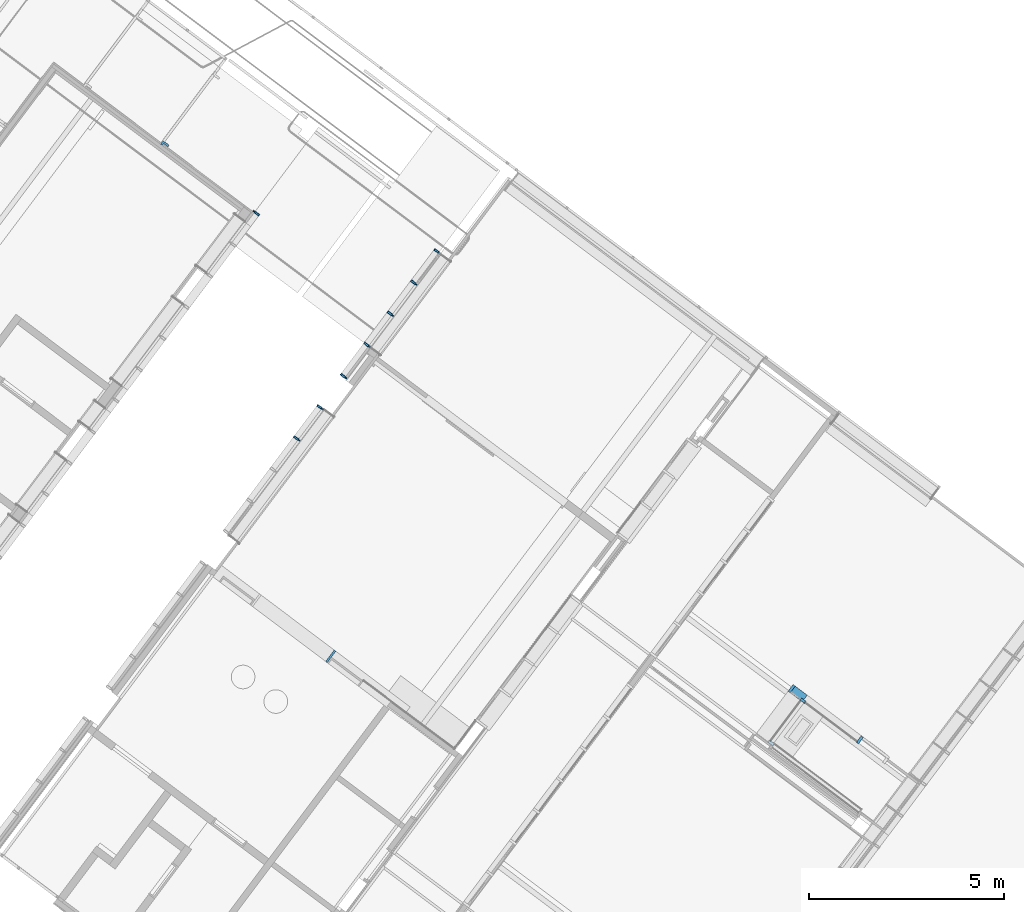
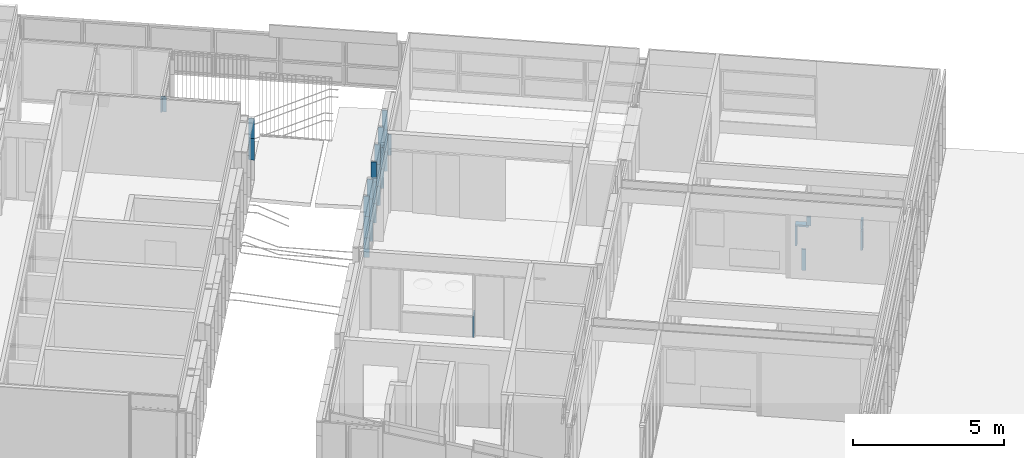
# One storey, part 89 of 243: 29 members, 6 elements without a shape of their own.
"""IFC2X3 building model written with IfcOpenShell, lengths in metres."""

from ifc_helpers import new_model, entity, si_unit, converted_unit, derived_unit, direction, frame, frame_2d, origin, origin_2d_with_axis, place, context, subcontext, project, spatial, polyline, rectangle, outline, extrude, source, transform, mapped, material, type_object, type_shapes, element, aggregate, save


model = new_model("IFC2X3")

# Units and contexts
model_context = context("Model", 3, precision=1e-05, world=origin(), true_north=direction((6.123031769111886e-17, 1.0)))
body_context = subcontext(model_context, "Body", "Model", "MODEL_VIEW")
ifc_project = project(units=[si_unit("LENGTHUNIT", "METRE"), si_unit("AREAUNIT", "SQUARE_METRE"), si_unit("VOLUMEUNIT", "CUBIC_METRE"), converted_unit("PLANEANGLEUNIT", "DEGREE", entity("IfcRatioMeasure", 0.017453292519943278), si_unit("PLANEANGLEUNIT", "RADIAN"), dimensions=[0, 0, 0, 0, 0, 0, 0]), si_unit("MASSUNIT", "GRAM", prefix="KILO"), derived_unit("MASSDENSITYUNIT", [(si_unit("MASSUNIT", "GRAM", prefix="KILO"), 1), (si_unit("LENGTHUNIT", "METRE"), -3)]), derived_unit("IONCONCENTRATIONUNIT", [(si_unit("MASSUNIT", "GRAM", prefix="KILO"), 1), (si_unit("LENGTHUNIT", "METRE"), -3)]), derived_unit("MOMENTOFINERTIAUNIT", [(si_unit("LENGTHUNIT", "METRE"), 4)]), si_unit("TIMEUNIT", "SECOND"), si_unit("FREQUENCYUNIT", "HERTZ"), si_unit("THERMODYNAMICTEMPERATUREUNIT", "DEGREE_CELSIUS"), derived_unit("THERMALTRANSMITTANCEUNIT", [(si_unit("MASSUNIT", "GRAM", prefix="KILO"), 1), (si_unit("THERMODYNAMICTEMPERATUREUNIT", "KELVIN"), -1), (si_unit("TIMEUNIT", "SECOND"), -3)]), derived_unit("THERMALCONDUCTANCEUNIT", [(si_unit("MASSUNIT", "GRAM", prefix="KILO"), 1), (si_unit("THERMODYNAMICTEMPERATUREUNIT", "KELVIN"), -1), (si_unit("TIMEUNIT", "SECOND"), -3), (si_unit("LENGTHUNIT", "METRE"), 1)]), derived_unit("VOLUMETRICFLOWRATEUNIT", [(si_unit("LENGTHUNIT", "METRE"), 3), (si_unit("TIMEUNIT", "SECOND"), -1)]), derived_unit("MASSFLOWRATEUNIT", [(si_unit("MASSUNIT", "GRAM", prefix="KILO"), 1), (si_unit("TIMEUNIT", "SECOND"), -1)]), derived_unit("ROTATIONALFREQUENCYUNIT", [(si_unit("TIMEUNIT", "SECOND"), -1)]), si_unit("ELECTRICCURRENTUNIT", "AMPERE"), si_unit("ELECTRICVOLTAGEUNIT", "VOLT"), si_unit("POWERUNIT", "WATT"), si_unit("FORCEUNIT", "NEWTON", prefix="KILO"), si_unit("ILLUMINANCEUNIT", "LUX"), si_unit("LUMINOUSFLUXUNIT", "LUMEN"), si_unit("LUMINOUSINTENSITYUNIT", "CANDELA"), derived_unit("USERDEFINED", [(si_unit("MASSUNIT", "GRAM", prefix="KILO"), -1), (si_unit("LENGTHUNIT", "METRE"), -2), (si_unit("TIMEUNIT", "SECOND"), 3), (si_unit("LUMINOUSFLUXUNIT", "LUMEN"), 1)]), derived_unit("USERDEFINED", [(si_unit("MASSUNIT", "GRAM", prefix="KILO"), 1), (si_unit("TIMEUNIT", "SECOND"), -3), (si_unit("LENGTHUNIT", "METRE"), 3), (si_unit("ELECTRICCURRENTUNIT", "AMPERE"), -2)]), derived_unit("SOUNDPOWERUNIT", [(si_unit("MASSUNIT", "GRAM", prefix="KILO"), 1), (si_unit("TIMEUNIT", "SECOND"), -3), (si_unit("LENGTHUNIT", "METRE"), 2)]), derived_unit("SOUNDPRESSUREUNIT", [(si_unit("MASSUNIT", "GRAM", prefix="KILO"), 1), (si_unit("LENGTHUNIT", "METRE"), -1), (si_unit("TIMEUNIT", "SECOND"), -2)]), derived_unit("LINEARVELOCITYUNIT", [(si_unit("LENGTHUNIT", "METRE"), 1), (si_unit("TIMEUNIT", "SECOND"), -1)]), si_unit("PRESSUREUNIT", "PASCAL"), derived_unit("USERDEFINED", [(si_unit("MASSUNIT", "GRAM", prefix="KILO"), 1), (si_unit("LENGTHUNIT", "METRE"), -2), (si_unit("TIMEUNIT", "SECOND"), -2)]), derived_unit("LINEARFORCEUNIT", [(si_unit("MASSUNIT", "GRAM", prefix="KILO"), 1), (si_unit("TIMEUNIT", "SECOND"), -2)]), derived_unit("PLANARFORCEUNIT", [(si_unit("MASSUNIT", "GRAM", prefix="KILO"), 1), (si_unit("LENGTHUNIT", "METRE"), -1), (si_unit("TIMEUNIT", "SECOND"), -2)]), derived_unit("SPECIFICHEATCAPACITYUNIT", [(si_unit("THERMODYNAMICTEMPERATUREUNIT", "KELVIN"), -1), (si_unit("LENGTHUNIT", "METRE"), 2), (si_unit("TIMEUNIT", "SECOND"), -2)]), derived_unit("HEATINGVALUEUNIT", [(si_unit("LENGTHUNIT", "METRE"), 2), (si_unit("TIMEUNIT", "SECOND"), -2)]), derived_unit("VAPORPERMEABILITYUNIT", [(si_unit("LENGTHUNIT", "METRE"), -1), (si_unit("TIMEUNIT", "SECOND"), 1)]), derived_unit("DYNAMICVISCOSITYUNIT", [(si_unit("MASSUNIT", "GRAM", prefix="KILO"), 1), (si_unit("TIMEUNIT", "SECOND"), -1), (si_unit("LENGTHUNIT", "METRE"), -1)]), derived_unit("THERMALEXPANSIONCOEFFICIENTUNIT", [(si_unit("THERMODYNAMICTEMPERATUREUNIT", "KELVIN"), -1)]), derived_unit("MODULUSOFELASTICITYUNIT", [(si_unit("MASSUNIT", "GRAM", prefix="KILO"), 1), (si_unit("LENGTHUNIT", "METRE"), -1), (si_unit("TIMEUNIT", "SECOND"), -2)]), derived_unit("ISOTHERMALMOISTURECAPACITYUNIT", [(si_unit("LENGTHUNIT", "METRE"), 3), (si_unit("MASSUNIT", "GRAM", prefix="KILO"), -1)]), derived_unit("MOISTUREDIFFUSIVITYUNIT", [(si_unit("TIMEUNIT", "SECOND"), -1), (si_unit("LENGTHUNIT", "METRE"), 2)])], contexts=[model_context])

# Site, building, storey
site_placement = place(None, frame((0.0, 0.0, 235.0), z_axis=(0.0, 0.0, 1.0), x_axis=(-0.7996477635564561, 0.6004693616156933, 0.0)))
site = spatial("IfcSite", under=ifc_project, at=site_placement, Name="Default", CompositionType="ELEMENT")
building_placement = place(site_placement, origin())
building = spatial("IfcBuilding", under=site, at=building_placement, CompositionType="ELEMENT")
storey_placement = place(building_placement, origin())
storey = spatial("IfcBuildingStorey", under=building, at=storey_placement, Name="P0- Escola", CompositionType="ELEMENT", Elevation=0.0)

# Curtain wall, members
curtain_wall_type_1 = type_object("IfcCurtainWallType", Name="Muro cortina:MC- INT- k1", PredefinedType="NOTDEFINED")
curtain_wall_1_placement = place(storey_placement, origin())
curtain_wall_1 = element("IfcCurtainWall", 1, at=curtain_wall_1_placement, inside=storey, type_object=curtain_wall_type_1, Name="Muro cortina:MC- INT- k1", ObjectType="Muro cortina:MC- INT- k1")
ifc_material_1 = material(Name="_Fusta massisa- T1")
member_type_1 = type_object("IfcMemberType", Name="Montante rectangular:MC- Fusta- 21,4x7 cm- Neutre- Bany infantil", PredefinedType="MULLION", material=ifc_material_1)
shared_shape_1 = source(origin(), body_context, "Body", "SweptSolid", [
    extrude(rectangle(XDim=0.21400000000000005, YDim=0.06999999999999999, at=frame_2d((-5.551115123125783e-17, 0.0), x_axis=(1.0, 0.0))), frame((0.0, -0.08099999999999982, -0.7849999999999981), z_axis=(0.0, 0.0, 1.0), x_axis=(0.0, -1.0, 0.0)), (0.0, 0.0, 1.0), 0.7849999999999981),
])
type_shapes(member_type_1, [shared_shape_1])
member_1_placement = place(curtain_wall_1_placement, frame((7.804147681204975, -35.827191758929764, 0.0), z_axis=(0.0, 0.0, -1.0), x_axis=(-1.0, 0.0, 0.0)))
member_1 = element("IfcMember", 2, at=member_1_placement, type_object=member_type_1, material=ifc_material_1, Name="Montante rectangular:MC- Fusta- 21,4x7 cm- Neutre- Bany infantil", ObjectType="Montante rectangular:MC- Fusta- 21,4x7 cm- Neutre- Bany infantil", context=body_context, shape_type="MappedRepresentation", body=[
    mapped(shared_shape_1, transform((0.0, 0.0, 0.0), scale=1.0)),
])
member_type_2 = type_object("IfcMemberType", Name="Montante rectangular:MC- Fusta- 21,4x7 cm- Neutre- Bany infantil", PredefinedType="MULLION", material=ifc_material_1)
shared_shape_2 = source(origin(), body_context, "Body", "SweptSolid", [
    extrude(rectangle(XDim=0.21399999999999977, YDim=0.06999999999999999, at=frame_2d((5.551115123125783e-17, 0.0), x_axis=(1.0, 0.0))), frame((-0.034999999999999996, -0.08099999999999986, -0.7849999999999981), z_axis=(0.0, 0.0, 1.0), x_axis=(0.0, -1.0, 0.0)), (0.0, 0.0, 1.0), 0.7849999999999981),
])
type_shapes(member_type_2, [shared_shape_2])
member_2_placement = place(curtain_wall_1_placement, frame((10.025147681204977, -35.82719175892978, 0.7849999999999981)))
member_2 = element("IfcMember", 3, at=member_2_placement, type_object=member_type_2, material=ifc_material_1, Name="Montante rectangular:MC- Fusta- 21,4x7 cm- Neutre- Bany infantil", ObjectType="Montante rectangular:MC- Fusta- 21,4x7 cm- Neutre- Bany infantil", context=body_context, shape_type="MappedRepresentation", body=[
    mapped(shared_shape_2, transform((0.0, 0.0, 0.0), scale=1.0)),
])
member_type_3 = type_object("IfcMemberType", Name="Montante rectangular:MC- Fusta- 21,4x7 cm- Esquerra- Bany infantil", PredefinedType="MULLION", material=ifc_material_1)
shared_shape_3 = source(origin(), body_context, "Body", "SweptSolid", [
    extrude(outline(polyline([(-0.06649999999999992, -0.02249999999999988), (-0.05049999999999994, -0.02249999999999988), (-0.050499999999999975, -0.0024999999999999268), (-0.030499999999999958, -0.002499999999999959), (-0.030499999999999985, -0.022499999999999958), (0.14749999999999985, -0.022500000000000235), (0.14749999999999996, 0.04749999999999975), (-0.06650000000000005, 0.04750000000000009), (-0.06649999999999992, -0.02249999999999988)])), frame((-0.012500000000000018, -0.04049999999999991, -0.3450000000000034), z_axis=(0.0, 0.0, 1.0), x_axis=(0.0, -1.0, 0.0)), (0.0, 0.0, 1.0), 0.34500000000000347),
])
type_shapes(member_type_3, [shared_shape_3])
member_3_placement = place(curtain_wall_1_placement, frame((7.804147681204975, -35.827191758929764, 0.8549999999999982), z_axis=(0.0, 0.0, -1.0), x_axis=(-1.0, 0.0, 0.0)))
member_3 = element("IfcMember", 4, at=member_3_placement, type_object=member_type_3, material=ifc_material_1, Name="Montante rectangular:MC- Fusta- 21,4x7 cm- Esquerra- Bany infantil", ObjectType="Montante rectangular:MC- Fusta- 21,4x7 cm- Esquerra- Bany infantil", context=body_context, shape_type="MappedRepresentation", body=[
    mapped(shared_shape_3, transform((0.0, 0.0, 0.0), scale=1.0)),
])
member_type_4 = type_object("IfcMemberType", Name="Montante rectangular:MC- Fusta- 21,4x7 cm- Neutre- Bany infantil", PredefinedType="MULLION", material=ifc_material_1)
shared_shape_4 = source(origin(), body_context, "Body", "SweptSolid", [
    extrude(rectangle(XDim=0.21400000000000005, YDim=0.06999999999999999, at=frame_2d((-5.551115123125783e-17, 0.0), x_axis=(1.0, 0.0))), frame((0.0, -0.08099999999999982, -0.4550000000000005), z_axis=(0.0, 0.0, 1.0), x_axis=(0.0, -1.0, 0.0)), (0.0, 0.0, 1.0), 0.4550000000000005),
])
type_shapes(member_type_4, [shared_shape_4])
member_4_placement = place(curtain_wall_1_placement, frame((9.570147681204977, -35.82719175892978, 0.8199999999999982), z_axis=(-1.0, 0.0, 0.0), x_axis=(0.0, 0.0, 1.0)))
member_4 = element("IfcMember", 5, at=member_4_placement, type_object=member_type_4, material=ifc_material_1, Name="Montante rectangular:MC- Fusta- 21,4x7 cm- Neutre- Bany infantil", ObjectType="Montante rectangular:MC- Fusta- 21,4x7 cm- Neutre- Bany infantil", context=body_context, shape_type="MappedRepresentation", body=[
    mapped(shared_shape_4, transform((0.0, 0.0, 0.0), scale=1.0)),
])
member_type_5 = type_object("IfcMemberType", Name="Montante rectangular:PerfilBany-Dreta", PredefinedType="MULLION", material=ifc_material_1)
shared_shape_5 = source(origin(), body_context, "Body", "SweptSolid", [
    extrude(outline(polyline([(-0.03050000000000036, -0.1075), (0.0394999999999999, -0.1075), (0.0394999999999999, 0.04250000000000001), (0.0055000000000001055, 0.04250000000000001), (0.0055000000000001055, 0.022500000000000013), (-0.014499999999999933, 0.022500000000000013), (-0.014499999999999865, 0.04249999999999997), (-0.030499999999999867, 0.04249999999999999), (-0.03050000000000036, -0.1075)])), frame((0.03250000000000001, -0.0045000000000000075, -0.3450000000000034), z_axis=(0.0, 0.0, 1.0), x_axis=(0.0, -1.0, 0.0)), (0.0, 0.0, 1.0), 0.34500000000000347),
])
type_shapes(member_type_5, [shared_shape_5])
member_5_placement = place(curtain_wall_1_placement, frame((9.570147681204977, -35.82719175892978, 0.8549999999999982), z_axis=(0.0, 0.0, -1.0), x_axis=(-1.0, 0.0, 0.0)))
member_5 = element("IfcMember", 6, at=member_5_placement, type_object=member_type_5, material=ifc_material_1, Name="Montante rectangular:PerfilBany-Dreta", ObjectType="Montante rectangular:PerfilBany-Dreta", context=body_context, shape_type="MappedRepresentation", body=[
    mapped(shared_shape_5, transform((0.0, 0.0, 0.0), scale=1.0)),
])
aggregate(curtain_wall_1, [member_1, member_2, member_3, member_4, member_5])

# Curtain wall, member
curtain_wall_type_2 = type_object("IfcCurtainWallType", Name="Muro cortina:MC- INT- k1", PredefinedType="NOTDEFINED")
curtain_wall_2_placement = place(storey_placement, origin())
curtain_wall_2 = element("IfcCurtainWall", 7, at=curtain_wall_2_placement, inside=storey, type_object=curtain_wall_type_2, Name="Muro cortina:MC- INT- k1", ObjectType="Muro cortina:MC- INT- k1")
member_type_6 = type_object("IfcMemberType", Name="Montante rectangular:MC- Fusta- 15x7- Neutre", PredefinedType="MULLION", material=ifc_material_1)
shared_shape_6 = source(origin(), body_context, "Body", "SweptSolid", [
    extrude(rectangle(XDim=0.1499999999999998, YDim=0.06999999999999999, at=frame_2d((4.85722573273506e-17, 0.0), x_axis=(1.0, 0.0))), frame((-0.034999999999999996, -0.04899999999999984, -0.8399999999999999), z_axis=(0.0, 0.0, 1.0), x_axis=(0.0, -1.0, 0.0)), (0.0, 0.0, 1.0), 0.8399999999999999),
])
type_shapes(member_type_6, [shared_shape_6])
member_6_placement = place(curtain_wall_2_placement, frame((9.619147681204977, -34.440191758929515, 0.0), z_axis=(0.0, 0.0, -1.0), x_axis=(0.0, 1.0, 0.0)))
member_6 = element("IfcMember", 8, at=member_6_placement, type_object=member_type_6, material=ifc_material_1, Name="Montante rectangular:MC- Fusta- 15x7- Neutre", ObjectType="Montante rectangular:MC- Fusta- 15x7- Neutre", context=body_context, shape_type="MappedRepresentation", body=[
    mapped(shared_shape_6, transform((0.0, 0.0, 0.0), scale=1.0)),
])
aggregate(curtain_wall_2, [member_6])

# Curtain wall, members
curtain_wall_type_3 = type_object("IfcCurtainWallType", Name="Muro cortina:MC- EXT- MC2", PredefinedType="NOTDEFINED")
curtain_wall_3_placement = place(storey_placement, origin())
curtain_wall_3 = element("IfcCurtainWall", 9, at=curtain_wall_3_placement, inside=storey, type_object=curtain_wall_type_3, Name="Muro cortina:MC- EXT- MC2", ObjectType="Muro cortina:MC- EXT- MC2")
ifc_material_2 = material(Name="_Alumini- T1- Perfil")
member_type_7 = type_object("IfcMemberType", Name="Montante rectangular:MC- Alu- 140x52,5 cm- Fa patis- Centre", PredefinedType="MULLION", material=ifc_material_2)
shared_shape_7 = source(origin(), body_context, "Body", "SweptSolid", [
    extrude(outline(polyline([(-0.11699999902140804, -0.026250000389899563), (0.021999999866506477, -0.026250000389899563), (0.021999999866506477, -0.015000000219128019), (0.07299999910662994, -0.015000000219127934), (0.07299999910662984, 0.015000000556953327), (0.02200000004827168, 0.015000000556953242), (0.02200000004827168, 0.026250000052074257), (-0.11699999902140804, 0.026250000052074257), (-0.11699999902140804, -0.026250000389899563)])), frame((-0.026250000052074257, 0.022999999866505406, -0.8750000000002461), z_axis=(0.0, 0.0, 1.0), x_axis=(0.0, -1.0, 0.0)), (0.0, 0.0, 1.0), 0.8750000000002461),
])
type_shapes(member_type_7, [shared_shape_7])
member_7_placement = place(curtain_wall_3_placement, frame((28.345147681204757, -37.44144175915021, 0.8200000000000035), z_axis=(0.0, 0.0, -1.0), x_axis=(0.0, -1.0, 0.0)))
member_7 = element("IfcMember", 10, at=member_7_placement, type_object=member_type_7, material=ifc_material_2, Name="Montante rectangular:MC- Alu- 140x52,5 cm- Fa patis- Centre", ObjectType="Montante rectangular:MC- Alu- 140x52,5 cm- Fa patis- Centre", context=body_context, shape_type="MappedRepresentation", body=[
    mapped(shared_shape_7, transform((0.0, 0.0, 0.0), scale=1.0)),
])
member_type_8 = type_object("IfcMemberType", Name="Montante rectangular:MC- Alu- 140x52,5 cm- Fa patis- Centre", PredefinedType="MULLION", material=ifc_material_2)
shared_shape_8 = source(origin(), body_context, "Body", "SweptSolid", [
    extrude(outline(polyline([(-0.11699999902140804, -0.026250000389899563), (0.021999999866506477, -0.026250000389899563), (0.021999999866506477, -0.015000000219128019), (0.07299999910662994, -0.015000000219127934), (0.07299999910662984, 0.015000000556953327), (0.02200000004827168, 0.015000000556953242), (0.02200000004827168, 0.026250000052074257), (-0.11699999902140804, 0.026250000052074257), (-0.11699999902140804, -0.026250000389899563)])), frame((-0.026250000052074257, 0.022999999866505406, -0.79749999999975), z_axis=(0.0, 0.0, 1.0), x_axis=(0.0, -1.0, 0.0)), (0.0, 0.0, 1.0), 0.79749999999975),
])
type_shapes(member_type_8, [shared_shape_8])
member_8_placement = place(curtain_wall_3_placement, frame((28.345147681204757, -37.44144175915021, 1.6950000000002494), z_axis=(0.0, 0.0, -1.0), x_axis=(0.0, -1.0, 0.0)))
member_8 = element("IfcMember", 11, at=member_8_placement, type_object=member_type_8, material=ifc_material_2, Name="Montante rectangular:MC- Alu- 140x52,5 cm- Fa patis- Centre", ObjectType="Montante rectangular:MC- Alu- 140x52,5 cm- Fa patis- Centre", context=body_context, shape_type="MappedRepresentation", body=[
    mapped(shared_shape_8, transform((0.0, 0.0, 0.0), scale=1.0)),
])
aggregate(curtain_wall_3, [member_7, member_8])

curtain_wall_4_placement = place(storey_placement, origin())
curtain_wall_4 = element("IfcCurtainWall", 12, at=curtain_wall_4_placement, inside=storey, type_object=curtain_wall_type_3, Name="Muro cortina:MC- EXT- MC2", ObjectType="Muro cortina:MC- EXT- MC2")
member_type_9 = type_object("IfcMemberType", Name="Montante rectangular:MC- Alu- 140x52,5 cm- Fa patis- Centre", PredefinedType="MULLION", material=ifc_material_2)
shared_shape_9 = source(origin(), body_context, "Body", "SweptSolid", [
    extrude(outline(polyline([(-0.021999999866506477, -0.026250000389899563), (0.11699999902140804, -0.026250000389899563), (0.11699999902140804, 0.026250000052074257), (-0.02200000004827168, 0.026250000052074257), (-0.02200000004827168, 0.015000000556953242), (-0.07299999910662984, 0.015000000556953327), (-0.07299999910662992, -0.015000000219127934), (-0.021999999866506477, -0.015000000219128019), (-0.021999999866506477, -0.026250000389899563)])), frame((-0.026250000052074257, -0.022999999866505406, -0.8400000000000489), z_axis=(0.0, 0.0, 1.0), x_axis=(0.0, -1.0, 0.0)), (0.0, 0.0, 1.0), 0.8400000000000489),
])
type_shapes(member_type_9, [shared_shape_9])
member_9_placement = place(curtain_wall_4_placement, frame((23.945147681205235, -39.441441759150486, -0.02), z_axis=(0.0, 0.0, -1.0), x_axis=(0.0, -1.0, 0.0)))
member_9 = element("IfcMember", 13, at=member_9_placement, type_object=member_type_9, material=ifc_material_2, Name="Montante rectangular:MC- Alu- 140x52,5 cm- Fa patis- Centre", ObjectType="Montante rectangular:MC- Alu- 140x52,5 cm- Fa patis- Centre", context=body_context, shape_type="MappedRepresentation", body=[
    mapped(shared_shape_9, transform((0.0, 0.0, 0.0), scale=1.0)),
])
member_type_10 = type_object("IfcMemberType", Name="Montante rectangular:MC- Alu- 140x52,5 cm- Fa patis- Centre", PredefinedType="MULLION", material=ifc_material_2)
shared_shape_10 = source(origin(), body_context, "Body", "SweptSolid", [
    extrude(outline(polyline([(-0.021999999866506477, -0.026250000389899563), (0.11699999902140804, -0.026250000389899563), (0.11699999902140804, 0.026250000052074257), (-0.02200000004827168, 0.026250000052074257), (-0.02200000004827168, 0.015000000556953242), (-0.07299999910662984, 0.015000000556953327), (-0.07299999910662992, -0.01500000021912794), (-0.021999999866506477, -0.01500000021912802), (-0.021999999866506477, -0.026250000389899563)])), frame((0.0, -0.022999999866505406, -0.8400000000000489), z_axis=(0.0, 0.0, 1.0), x_axis=(0.0, -1.0, 0.0)), (0.0, 0.0, 1.0), 0.8400000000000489),
])
type_shapes(member_type_10, [shared_shape_10])
member_10_placement = place(curtain_wall_4_placement, frame((23.945147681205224, -34.415191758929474, -0.02), z_axis=(0.0, 0.0, -1.0), x_axis=(0.0, -1.0, 0.0)))
member_10 = element("IfcMember", 14, at=member_10_placement, type_object=member_type_10, material=ifc_material_2, Name="Montante rectangular:MC- Alu- 140x52,5 cm- Fa patis- Centre", ObjectType="Montante rectangular:MC- Alu- 140x52,5 cm- Fa patis- Centre", context=body_context, shape_type="MappedRepresentation", body=[
    mapped(shared_shape_10, transform((0.0, 0.0, 0.0), scale=1.0)),
])
member_type_11 = type_object("IfcMemberType", Name="Montante rectangular:MC- Alu- 140x52,5 cm- Fa patis- Centre", PredefinedType="MULLION", material=ifc_material_2)
shared_shape_11 = source(origin(), body_context, "Body", "SweptSolid", [
    extrude(outline(polyline([(-0.021999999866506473, -0.026250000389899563), (0.11699999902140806, -0.026250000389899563), (0.11699999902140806, 0.026250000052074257), (-0.022000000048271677, 0.026250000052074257), (-0.022000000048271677, 0.015000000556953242), (-0.07299999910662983, 0.015000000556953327), (-0.07299999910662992, -0.01500000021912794), (-0.021999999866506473, -0.01500000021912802), (-0.021999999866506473, -0.026250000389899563)])), frame((0.0, -0.022999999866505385, -0.7850000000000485), z_axis=(0.0, 0.0, 1.0), x_axis=(0.0, -1.0, 0.0)), (0.0, 0.0, 1.0), 0.7850000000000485),
])
type_shapes(member_type_11, [shared_shape_11])
member_11_placement = place(curtain_wall_4_placement, frame((23.945147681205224, -33.41519175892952, 0.035000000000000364), z_axis=(0.0, 0.0, -1.0), x_axis=(0.0, -1.0, 0.0)))
member_11 = element("IfcMember", 15, at=member_11_placement, type_object=member_type_11, material=ifc_material_2, Name="Montante rectangular:MC- Alu- 140x52,5 cm- Fa patis- Centre", ObjectType="Montante rectangular:MC- Alu- 140x52,5 cm- Fa patis- Centre", context=body_context, shape_type="MappedRepresentation", body=[
    mapped(shared_shape_11, transform((0.0, 0.0, 0.0), scale=1.0)),
])
member_12_placement = place(curtain_wall_4_placement, frame((23.945147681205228, -36.41798786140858, 0.035000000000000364), z_axis=(0.0, 0.0, -1.0), x_axis=(0.0, -1.0, 0.0)))
member_12 = element("IfcMember", 16, at=member_12_placement, type_object=member_type_11, material=ifc_material_2, Name="Montante rectangular:MC- Alu- 140x52,5 cm- Fa patis- Centre", ObjectType="Montante rectangular:MC- Alu- 140x52,5 cm- Fa patis- Centre", context=body_context, shape_type="MappedRepresentation", body=[
    mapped(shared_shape_11, transform((0.0, 0.0, 0.0), scale=1.0)),
])
member_type_12 = type_object("IfcMemberType", Name="Montante rectangular:MC- Alu- 140x52,5 cm- Fa patis- Centre", PredefinedType="MULLION", material=ifc_material_2)
shared_shape_12 = source(origin(), body_context, "Body", "SweptSolid", [
    extrude(outline(polyline([(-0.021999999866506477, -0.026250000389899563), (0.11699999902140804, -0.026250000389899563), (0.11699999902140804, 0.026250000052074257), (-0.02200000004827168, 0.026250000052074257), (-0.02200000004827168, 0.015000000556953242), (-0.07299999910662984, 0.015000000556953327), (-0.07299999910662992, -0.01500000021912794), (-0.021999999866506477, -0.01500000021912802), (-0.021999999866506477, -0.026250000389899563)])), frame((0.0, -0.022999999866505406, -0.8750000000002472), z_axis=(0.0, 0.0, 1.0), x_axis=(0.0, -1.0, 0.0)), (0.0, 0.0, 1.0), 0.8750000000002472),
])
type_shapes(member_type_12, [shared_shape_12])
member_13_placement = place(curtain_wall_4_placement, frame((23.945147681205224, -33.41519175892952, 0.8200000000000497), z_axis=(0.0, 0.0, -1.0), x_axis=(0.0, -1.0, 0.0)))
member_13 = element("IfcMember", 17, at=member_13_placement, type_object=member_type_12, material=ifc_material_2, Name="Montante rectangular:MC- Alu- 140x52,5 cm- Fa patis- Centre", ObjectType="Montante rectangular:MC- Alu- 140x52,5 cm- Fa patis- Centre", context=body_context, shape_type="MappedRepresentation", body=[
    mapped(shared_shape_12, transform((0.0, 0.0, 0.0), scale=1.0)),
])
member_14_placement = place(curtain_wall_4_placement, frame((23.945147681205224, -34.415191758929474, 0.8200000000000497), z_axis=(0.0, 0.0, -1.0), x_axis=(0.0, -1.0, 0.0)))
member_14 = element("IfcMember", 18, at=member_14_placement, type_object=member_type_12, material=ifc_material_2, Name="Montante rectangular:MC- Alu- 140x52,5 cm- Fa patis- Centre", ObjectType="Montante rectangular:MC- Alu- 140x52,5 cm- Fa patis- Centre", context=body_context, shape_type="MappedRepresentation", body=[
    mapped(shared_shape_12, transform((0.0, 0.0, 0.0), scale=1.0)),
])
member_15_placement = place(curtain_wall_4_placement, frame((23.945147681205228, -35.41519175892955, 0.8200000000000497), z_axis=(0.0, 0.0, -1.0), x_axis=(0.0, -1.0, 0.0)))
member_15 = element("IfcMember", 19, at=member_15_placement, type_object=member_type_12, material=ifc_material_2, Name="Montante rectangular:MC- Alu- 140x52,5 cm- Fa patis- Centre", ObjectType="Montante rectangular:MC- Alu- 140x52,5 cm- Fa patis- Centre", context=body_context, shape_type="MappedRepresentation", body=[
    mapped(shared_shape_12, transform((0.0, 0.0, 0.0), scale=1.0)),
])
member_16_placement = place(curtain_wall_4_placement, frame((23.945147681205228, -36.41798786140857, 0.8200000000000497), z_axis=(0.0, 0.0, -1.0), x_axis=(0.0, -1.0, 0.0)))
member_16 = element("IfcMember", 20, at=member_16_placement, type_object=member_type_12, material=ifc_material_2, Name="Montante rectangular:MC- Alu- 140x52,5 cm- Fa patis- Centre", ObjectType="Montante rectangular:MC- Alu- 140x52,5 cm- Fa patis- Centre", context=body_context, shape_type="MappedRepresentation", body=[
    mapped(shared_shape_12, transform((0.0, 0.0, 0.0), scale=1.0)),
])
member_17_placement = place(curtain_wall_4_placement, frame((23.945147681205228, -37.41519175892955, 0.8200000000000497), z_axis=(0.0, 0.0, -1.0), x_axis=(0.0, -1.0, 0.0)))
member_17 = element("IfcMember", 21, at=member_17_placement, type_object=member_type_12, material=ifc_material_2, Name="Montante rectangular:MC- Alu- 140x52,5 cm- Fa patis- Centre", ObjectType="Montante rectangular:MC- Alu- 140x52,5 cm- Fa patis- Centre", context=body_context, shape_type="MappedRepresentation", body=[
    mapped(shared_shape_12, transform((0.0, 0.0, 0.0), scale=1.0)),
])
member_18_placement = place(curtain_wall_4_placement, frame((23.945147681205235, -38.41519175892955, 0.8200000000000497), z_axis=(0.0, 0.0, -1.0), x_axis=(0.0, -1.0, 0.0)))
member_18 = element("IfcMember", 22, at=member_18_placement, type_object=member_type_12, material=ifc_material_2, Name="Montante rectangular:MC- Alu- 140x52,5 cm- Fa patis- Centre", ObjectType="Montante rectangular:MC- Alu- 140x52,5 cm- Fa patis- Centre", context=body_context, shape_type="MappedRepresentation", body=[
    mapped(shared_shape_12, transform((0.0, 0.0, 0.0), scale=1.0)),
])
member_type_13 = type_object("IfcMemberType", Name="Montante rectangular:MC- Alu- 140x52,5 cm- Fa patis- Centre", PredefinedType="MULLION", material=ifc_material_2)
shared_shape_13 = source(origin(), body_context, "Body", "SweptSolid", [
    extrude(outline(polyline([(-0.021999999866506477, -0.026250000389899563), (0.11699999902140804, -0.026250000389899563), (0.11699999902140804, 0.026250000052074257), (-0.02200000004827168, 0.026250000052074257), (-0.02200000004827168, 0.015000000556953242), (-0.07299999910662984, 0.015000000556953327), (-0.07299999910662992, -0.01500000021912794), (-0.021999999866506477, -0.01500000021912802), (-0.021999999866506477, -0.026250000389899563)])), frame((0.0, -0.022999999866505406, -0.7974999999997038), z_axis=(0.0, 0.0, 1.0), x_axis=(0.0, -1.0, 0.0)), (0.0, 0.0, 1.0), 0.7974999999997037),
])
type_shapes(member_type_13, [shared_shape_13])
member_19_placement = place(curtain_wall_4_placement, frame((23.945147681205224, -33.41519175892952, 1.6950000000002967), z_axis=(0.0, 0.0, -1.0), x_axis=(0.0, -1.0, 0.0)))
member_19 = element("IfcMember", 23, at=member_19_placement, type_object=member_type_13, material=ifc_material_2, Name="Montante rectangular:MC- Alu- 140x52,5 cm- Fa patis- Centre", ObjectType="Montante rectangular:MC- Alu- 140x52,5 cm- Fa patis- Centre", context=body_context, shape_type="MappedRepresentation", body=[
    mapped(shared_shape_13, transform((0.0, 0.0, 0.0), scale=1.0)),
])
member_20_placement = place(curtain_wall_4_placement, frame((23.945147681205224, -34.415191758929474, 1.6950000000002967), z_axis=(0.0, 0.0, -1.0), x_axis=(0.0, -1.0, 0.0)))
member_20 = element("IfcMember", 24, at=member_20_placement, type_object=member_type_13, material=ifc_material_2, Name="Montante rectangular:MC- Alu- 140x52,5 cm- Fa patis- Centre", ObjectType="Montante rectangular:MC- Alu- 140x52,5 cm- Fa patis- Centre", context=body_context, shape_type="MappedRepresentation", body=[
    mapped(shared_shape_13, transform((0.0, 0.0, 0.0), scale=1.0)),
])
member_21_placement = place(curtain_wall_4_placement, frame((23.945147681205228, -35.41519175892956, 1.6950000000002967), z_axis=(0.0, 0.0, -1.0), x_axis=(0.0, -1.0, 0.0)))
member_21 = element("IfcMember", 25, at=member_21_placement, type_object=member_type_13, material=ifc_material_2, Name="Montante rectangular:MC- Alu- 140x52,5 cm- Fa patis- Centre", ObjectType="Montante rectangular:MC- Alu- 140x52,5 cm- Fa patis- Centre", context=body_context, shape_type="MappedRepresentation", body=[
    mapped(shared_shape_13, transform((0.0, 0.0, 0.0), scale=1.0)),
])
member_22_placement = place(curtain_wall_4_placement, frame((23.945147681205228, -36.41798786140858, 1.6950000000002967), z_axis=(0.0, 0.0, -1.0), x_axis=(0.0, -1.0, 0.0)))
member_22 = element("IfcMember", 26, at=member_22_placement, type_object=member_type_13, material=ifc_material_2, Name="Montante rectangular:MC- Alu- 140x52,5 cm- Fa patis- Centre", ObjectType="Montante rectangular:MC- Alu- 140x52,5 cm- Fa patis- Centre", context=body_context, shape_type="MappedRepresentation", body=[
    mapped(shared_shape_13, transform((0.0, 0.0, 0.0), scale=1.0)),
])
member_23_placement = place(curtain_wall_4_placement, frame((23.945147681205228, -37.41519175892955, 1.6950000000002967), z_axis=(0.0, 0.0, -1.0), x_axis=(0.0, -1.0, 0.0)))
member_23 = element("IfcMember", 27, at=member_23_placement, type_object=member_type_13, material=ifc_material_2, Name="Montante rectangular:MC- Alu- 140x52,5 cm- Fa patis- Centre", ObjectType="Montante rectangular:MC- Alu- 140x52,5 cm- Fa patis- Centre", context=body_context, shape_type="MappedRepresentation", body=[
    mapped(shared_shape_13, transform((0.0, 0.0, 0.0), scale=1.0)),
])
member_24_placement = place(curtain_wall_4_placement, frame((23.945147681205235, -38.41519175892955, 1.6950000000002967), z_axis=(0.0, 0.0, -1.0), x_axis=(0.0, -1.0, 0.0)))
member_24 = element("IfcMember", 28, at=member_24_placement, type_object=member_type_13, material=ifc_material_2, Name="Montante rectangular:MC- Alu- 140x52,5 cm- Fa patis- Centre", ObjectType="Montante rectangular:MC- Alu- 140x52,5 cm- Fa patis- Centre", context=body_context, shape_type="MappedRepresentation", body=[
    mapped(shared_shape_13, transform((0.0, 0.0, 0.0), scale=1.0)),
])

# Curtain wall, member
curtain_wall_type_4 = type_object("IfcCurtainWallType", PredefinedType="NOTDEFINED")
curtain_wall_5_placement = place(storey_placement, origin())
curtain_wall_5 = element("IfcCurtainWall", 29, at=curtain_wall_5_placement, inside=storey, type_object=curtain_wall_type_4)
member_type_14 = type_object("IfcMemberType", Name="Montante rectangular:MC- Alu- 140x52,5 cm- Porta- dreta", PredefinedType="MULLION", material=ifc_material_2)
shared_shape_14 = source(origin(), body_context, "Body", "SweptSolid", [
    extrude(outline(polyline([(-0.022000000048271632, -0.04406250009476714), (0.11699999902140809, -0.04406250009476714), (0.11699999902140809, 0.008437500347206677), (-0.02199999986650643, 0.008437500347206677), (-0.021999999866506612, 0.06843750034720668), (-0.07299999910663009, 0.0684375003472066), (-0.07299999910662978, -0.03281250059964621), (-0.022000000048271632, -0.032812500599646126), (-0.022000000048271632, -0.04406250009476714)])), frame((-0.0684375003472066, -0.022999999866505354, -0.5920000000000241), z_axis=(0.0, 0.0, 1.0), x_axis=(0.0, -1.0, 0.0)), (0.0, 0.0, 1.0), 0.5920000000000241),
])
type_shapes(member_type_14, [shared_shape_14])
member_25_placement = place(curtain_wall_5_placement, frame((31.271147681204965, -37.35619175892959, 2.5050000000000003), z_axis=(0.0, 0.0, -1.0), x_axis=(0.0, 1.0, 0.0)))
member_25 = element("IfcMember", 30, at=member_25_placement, type_object=member_type_14, material=ifc_material_2, Name="Montante rectangular:MC- Alu- 140x52,5 cm- Porta- dreta", ObjectType="Montante rectangular:MC- Alu- 140x52,5 cm- Porta- dreta", context=body_context, shape_type="MappedRepresentation", body=[
    mapped(shared_shape_14, transform((0.0, 0.0, 0.0), scale=1.0)),
])
aggregate(curtain_wall_5, [member_25])

# Member
member_type_15 = type_object("IfcMemberType", Name="Montante rectangular:MC- Alu- 140x52,5 cm- Fa patis- Centre", PredefinedType="MULLION", material=ifc_material_2)
shared_shape_15 = source(origin(), body_context, "Body", "SweptSolid", [
    extrude(outline(polyline([(-0.021999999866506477, -0.026250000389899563), (0.11699999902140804, -0.026250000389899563), (0.11699999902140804, 0.026250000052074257), (-0.02200000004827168, 0.026250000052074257), (-0.02200000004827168, 0.015000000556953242), (-0.07299999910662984, 0.015000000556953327), (-0.07299999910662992, -0.01500000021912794), (-0.021999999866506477, -0.01500000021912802), (-0.021999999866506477, -0.026250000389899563)])), frame((0.0, -0.022999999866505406, -0.7850000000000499), z_axis=(0.0, 0.0, 1.0), x_axis=(0.0, -1.0, 0.0)), (0.0, 0.0, 1.0), 0.7850000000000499),
])
type_shapes(member_type_15, [shared_shape_15])
member_26_placement = place(curtain_wall_4_placement, frame((23.945147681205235, -38.41519175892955, 0.035000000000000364), z_axis=(0.0, 0.0, -1.0), x_axis=(0.0, -1.0, 0.0)))
member_26 = element("IfcMember", 31, at=member_26_placement, type_object=member_type_15, material=ifc_material_2, Name="Montante rectangular:MC- Alu- 140x52,5 cm- Fa patis- Centre", ObjectType="Montante rectangular:MC- Alu- 140x52,5 cm- Fa patis- Centre", context=body_context, shape_type="MappedRepresentation", body=[
    mapped(shared_shape_15, transform((0.0, 0.0, 0.0), scale=1.0)),
])

member_27_placement = place(curtain_wall_4_placement, frame((23.945147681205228, -37.41519175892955, 0.035000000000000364), z_axis=(0.0, 0.0, -1.0), x_axis=(0.0, -1.0, 0.0)))
member_27 = element("IfcMember", 32, at=member_27_placement, type_object=member_type_15, material=ifc_material_2, Name="Montante rectangular:MC- Alu- 140x52,5 cm- Fa patis- Centre", ObjectType="Montante rectangular:MC- Alu- 140x52,5 cm- Fa patis- Centre", context=body_context, shape_type="MappedRepresentation", body=[
    mapped(shared_shape_15, transform((0.0, 0.0, 0.0), scale=1.0)),
])

member_28_placement = place(curtain_wall_4_placement, frame((23.945147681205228, -35.41519175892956, 0.035000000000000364), z_axis=(0.0, 0.0, -1.0), x_axis=(0.0, -1.0, 0.0)))
member_28 = element("IfcMember", 33, at=member_28_placement, type_object=member_type_15, material=ifc_material_2, Name="Montante rectangular:MC- Alu- 140x52,5 cm- Fa patis- Centre", ObjectType="Montante rectangular:MC- Alu- 140x52,5 cm- Fa patis- Centre", context=body_context, shape_type="MappedRepresentation", body=[
    mapped(shared_shape_15, transform((0.0, 0.0, 0.0), scale=1.0)),
])

aggregate(curtain_wall_4, [member_9, member_11, member_12, member_10, member_26, member_27, member_28, member_13, member_14, member_15, member_16, member_17, member_18, member_19, member_20, member_21, member_22, member_23, member_24])

# Curtain wall, member
curtain_wall_type_5 = type_object("IfcCurtainWallType", Name="Muro cortina:MC- INT- b3", PredefinedType="NOTDEFINED")
curtain_wall_6_placement = place(storey_placement, origin())
curtain_wall_6 = element("IfcCurtainWall", 34, at=curtain_wall_6_placement, inside=storey, type_object=curtain_wall_type_5, Name="Muro cortina:MC- INT- b3", ObjectType="Muro cortina:MC- INT- b3")
member_type_16 = type_object("IfcMemberType", Name="Montante rectangular:MC- Fusta- 38x5 cm- Menjador- neutre.rfa", PredefinedType="MULLION", material=ifc_material_1)
shared_shape_16 = source(origin(), body_context, "Body", "SweptSolid", [
    extrude(rectangle(XDim=0.36600000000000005, YDim=0.05, at=origin_2d_with_axis()), frame((0.0, 0.006999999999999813, -0.855), z_axis=(0.0, 0.0, 1.0), x_axis=(0.0, -1.0, 0.0)), (0.0, 0.0, 1.0), 0.855),
])
type_shapes(member_type_16, [shared_shape_16])
member_29_placement = place(curtain_wall_6_placement, frame((19.94214768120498, -29.46519175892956, 0.0), z_axis=(0.0, 0.0, -1.0), x_axis=(1.0, 0.0, 0.0)))
member_29 = element("IfcMember", 35, at=member_29_placement, type_object=member_type_16, material=ifc_material_1, Name="Montante rectangular:MC- Fusta- 38x5 cm- Menjador- neutre.rfa", ObjectType="Montante rectangular:MC- Fusta- 38x5 cm- Menjador- neutre.rfa", context=body_context, shape_type="MappedRepresentation", body=[
    mapped(shared_shape_16, transform((0.0, 0.0, 0.0), scale=1.0)),
])
aggregate(curtain_wall_6, [member_29])

save(model, "model.ifc")
